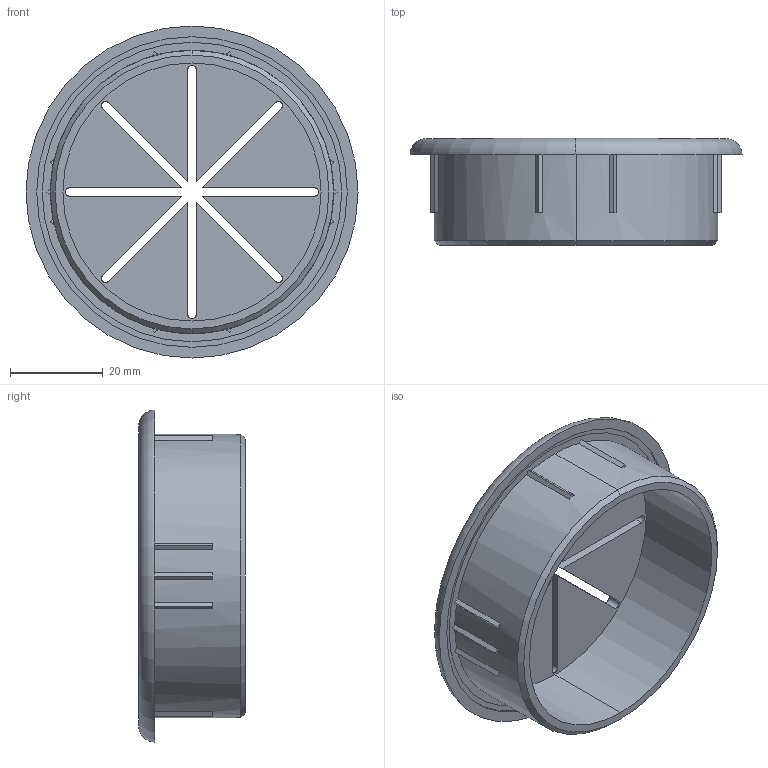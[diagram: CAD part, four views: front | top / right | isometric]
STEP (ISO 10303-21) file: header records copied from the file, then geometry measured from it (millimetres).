
FILE_DESCRIPTION((''),'2;1');
FILE_NAME('3514ASA_ASM','2021-09-08T12:08:38',('Mateo'),(''),'CREO PARAMETRIC BY PTC INC, 2020454','CREO PARAMETRIC BY PTC INC, 2020454','');
FILE_SCHEMA(('CONFIG_CONTROL_DESIGN'));
Length unit declared in the file: millimetre
Products named in the file (3): 3514ASA_GHIERA; 3514ASA_GOMMA; 3514ASA_ASM
Assembly tree (2 placements, depth 2):
  3514ASA_ASM
    3514ASA_GHIERA
    3514ASA_GOMMA
Bounding box: 71.5 x 23 x 71.5 mm (x, y, z)
Volume: 20463.5 mm3; surface area: 18568.4 mm2
Topology: 3 solids, 3 shells, 74 faces, 202 edges, 134 vertices
Faces by surface type: plane 52, cylinder 18, torus 2, cone 2
Entity records: 2452 total; most frequent: DIRECTION 424, CARTESIAN_POINT 415, ORIENTED_EDGE 404, EDGE_CURVE 202, AXIS2_PLACEMENT_3D 143, VECTOR 138, LINE 138, VERTEX_POINT 134
